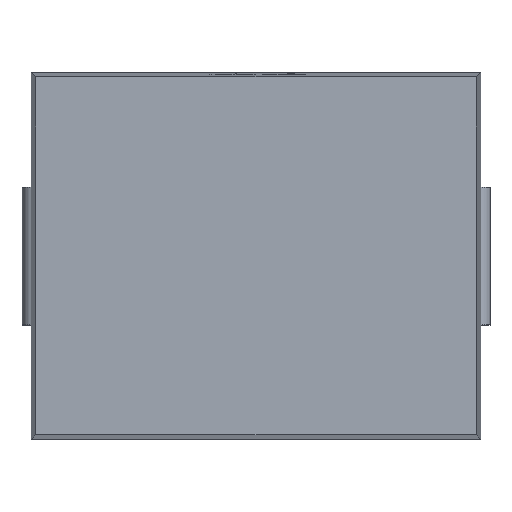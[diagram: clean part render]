
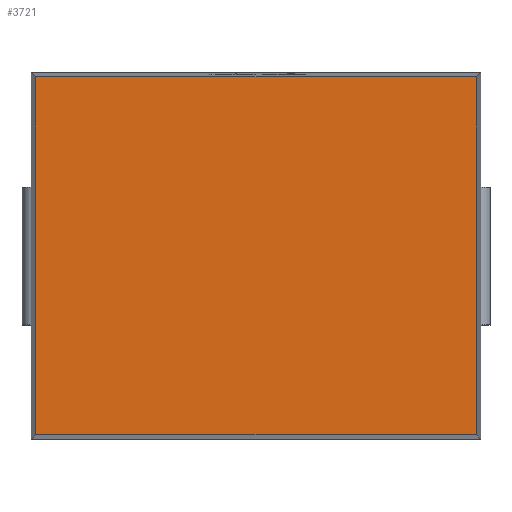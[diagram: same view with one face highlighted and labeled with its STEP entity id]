
A CAD part, top view. The second image highlights one B-rep face of the part: STEP entity #3721.
In plain terms, the highlighted planar face has unit normal (0, 0, 1).
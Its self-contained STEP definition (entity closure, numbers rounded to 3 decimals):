
#335 = VERTEX_POINT ( 'NONE', #9158 ) ;
#699 = DIRECTION ( 'NONE',  ( 0., 0., -1. ) ) ;
#821 = CARTESIAN_POINT ( 'NONE',  ( 4.8, 4., 2.25 ) ) ;
#941 = EDGE_CURVE ( 'NONE', #10149, #9228, #12314, .T. ) ;
#1468 = EDGE_CURVE ( 'NONE', #335, #10149, #12074, .T. ) ;
#1582 = DIRECTION ( 'NONE',  ( -1., 0., 0. ) ) ;
#2461 = VECTOR ( 'NONE', #4120, 1000. ) ;
#3374 = VERTEX_POINT ( 'NONE', #3835 ) ;
#3447 = EDGE_LOOP ( 'NONE', ( #8601, #5471, #3792, #4498 ) ) ;
#3570 = CARTESIAN_POINT ( 'NONE',  ( 4.8, -3.9, 2.25 ) ) ;
#3721 = ADVANCED_FACE ( 'NONE', ( #5600 ), #9552, .F. ) ;
#3729 = LINE ( 'NONE', #8444, #4413 ) ;
#3792 = ORIENTED_EDGE ( 'NONE', *, *, #4478, .F. ) ;
#3835 = CARTESIAN_POINT ( 'NONE',  ( 4.8, 3.9, 2.25 ) ) ;
#4120 = DIRECTION ( 'NONE',  ( 0., -1., 0. ) ) ;
#4413 = VECTOR ( 'NONE', #11566, 1000. ) ;
#4478 = EDGE_CURVE ( 'NONE', #3374, #9228, #12694, .T. ) ;
#4498 = ORIENTED_EDGE ( 'NONE', *, *, #12743, .F. ) ;
#4607 = CARTESIAN_POINT ( 'NONE',  ( -4.8, -3.9, 2.25 ) ) ;
#4751 = AXIS2_PLACEMENT_3D ( 'NONE', #10541, #699, #1582 ) ;
#5471 = ORIENTED_EDGE ( 'NONE', *, *, #941, .T. ) ;
#5600 = FACE_OUTER_BOUND ( 'NONE', #3447, .T. ) ;
#5931 = CARTESIAN_POINT ( 'NONE',  ( -4.8, 4., 2.25 ) ) ;
#6065 = DIRECTION ( 'NONE',  ( 0., -1., 0. ) ) ;
#7623 = VECTOR ( 'NONE', #6065, 1000. ) ;
#8167 = VECTOR ( 'NONE', #9219, 1000. ) ;
#8444 = CARTESIAN_POINT ( 'NONE',  ( -4.9, 3.9, 2.25 ) ) ;
#8601 = ORIENTED_EDGE ( 'NONE', *, *, #1468, .T. ) ;
#9158 = CARTESIAN_POINT ( 'NONE',  ( -4.8, 3.9, 2.25 ) ) ;
#9219 = DIRECTION ( 'NONE',  ( 1., 0., 0. ) ) ;
#9228 = VERTEX_POINT ( 'NONE', #3570 ) ;
#9552 = PLANE ( 'NONE',  #4751 ) ;
#10149 = VERTEX_POINT ( 'NONE', #4607 ) ;
#10541 = CARTESIAN_POINT ( 'NONE',  ( 4.8, 4., 2.25 ) ) ;
#11087 = CARTESIAN_POINT ( 'NONE',  ( -4.9, -3.9, 2.25 ) ) ;
#11566 = DIRECTION ( 'NONE',  ( 1., 0., 0. ) ) ;
#12074 = LINE ( 'NONE', #5931, #2461 ) ;
#12314 = LINE ( 'NONE', #11087, #8167 ) ;
#12694 = LINE ( 'NONE', #821, #7623 ) ;
#12743 = EDGE_CURVE ( 'NONE', #335, #3374, #3729, .T. ) ;
